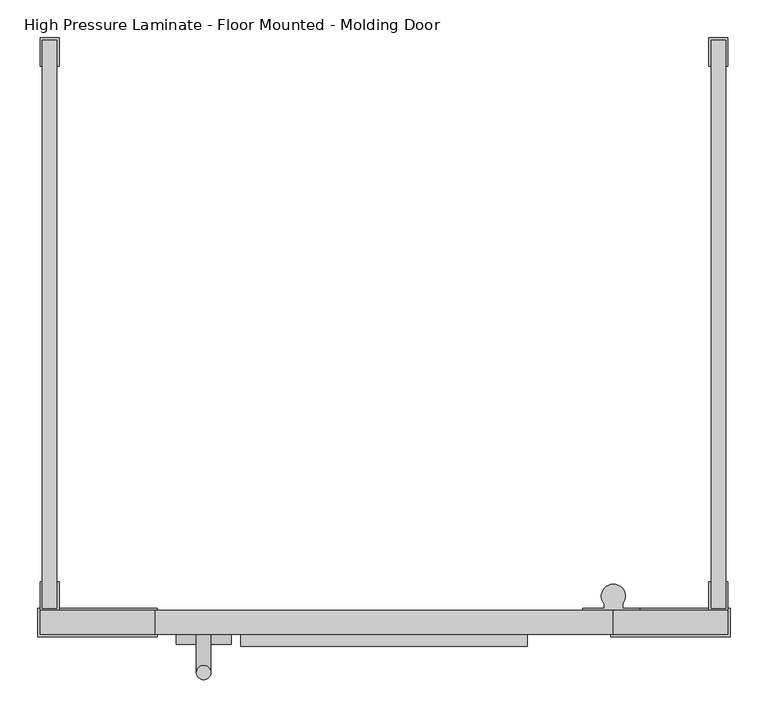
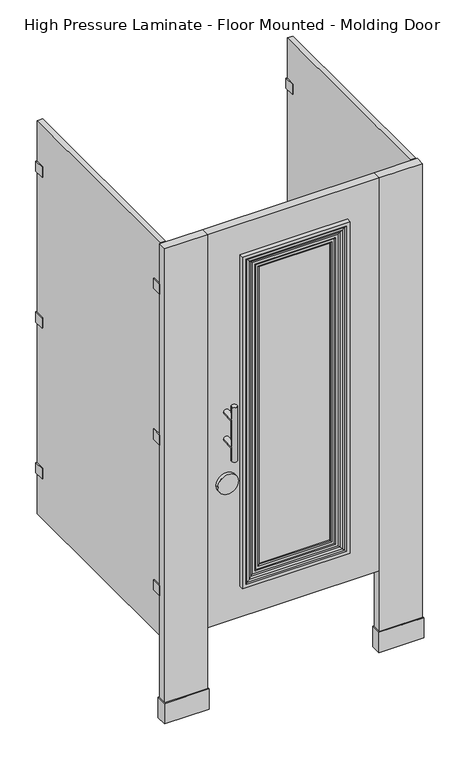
"""IFC4 building model written with IfcOpenShell, lengths in millimetres: proxy geometry, Toilet-Partition_Ironwood-Mfg_High-Pressure-Laminate : High Pressure Laminate - Floor Mounted - Molding Door."""

from ifc_helpers import new_model, si_unit, point, frame, frame_2d, origin, origin_with_axes, place, context, project, spatial, polyline, circle_curve, ellipse_curve, trimmed, segment, composite_curve, outline, extrude, source, transform, mapped, element, save
from ifc_brep_helpers import plane_surface, cylinder_surface, revolved_surface, advanced_brep


def high_pressure_laminate_floor_mounted_molding_door_ac0f712a(model_context):
    return source(origin(), model_context, "Body", "SolidModel", [
        extrude(outline(polyline([(701.675, -758.825), (701.675, -796.925), (542.925, -796.925), (542.925, -758.825), (701.675, -758.825)])), origin_with_axes(), (0.0, 0.0, 1.0), 76.2),
        extrude(outline(polyline([(698.5, -762.0), (698.5, -793.75), (546.1, -793.75), (546.1, -762.0), (698.5, -762.0)])), origin_with_axes(), (0.0, 0.0, 1.0), 1778.0),
        extrude(outline(polyline([(-219.075, -758.825), (-60.325, -758.825), (-60.325, -796.925), (-219.075, -796.925), (-219.075, -758.825)])), origin_with_axes(), (0.0, 0.0, 1.0), 76.2),
        extrude(outline(polyline([(-215.9, -762.0), (-63.5, -762.0), (-63.5, -793.75), (-215.9, -793.75), (-215.9, -762.0)])), origin_with_axes(), (0.0, 0.0, 1.0), 1778.0),
        extrude(outline(polyline([(546.1, -793.75), (-63.5, -793.75), (-63.5, -762.0), (546.1, -762.0), (546.1, -793.75)])), frame((0.0, 0.0, 304.8), z_axis=(0.0, 0.0, 1.0), x_axis=(1.0, 0.0, 0.0)), (0.0, 0.0, 1.0), 1473.2),
        extrude(outline(composite_curve([segment(trimmed(circle_curve(frame_2d((827.0875, 1.5875)), 36.5125), [point((827.0875, -34.925))], [point((827.0875, 38.1))], False, "CARTESIAN"), True, "CONTINUOUS"), segment(trimmed(circle_curve(frame_2d((827.0875, 1.5875)), 36.5125), [point((827.0875, 38.1))], [point((827.0875, -34.925))], False, "CARTESIAN"), True, "CONTINUOUS")], self_intersect=False)), frame((0.0, -806.45, 0.0), z_axis=(0.0, 1.0, 0.0), x_axis=(0.0, 0.0, 1.0)), (0.0, 0.0, 1.0), 12.7),
        advanced_brep(
        [(-7.9375, -793.75, 1092.2), (11.1125, -793.75, 1092.2), (-7.9375, -793.75, 990.6), (11.1125, -793.75, 990.6), (11.1125, -844.55, 1092.2), (-7.9375, -844.55, 1092.2), (11.1125, -844.55, 990.6), (-7.9375, -844.55, 990.6), (-7.9375, -844.55, 1143.0), (11.1125, -844.55, 1143.0), (-7.9375, -844.55, 939.8), (11.1125, -844.55, 939.8)],
        [
            (0, 1, circle_curve(frame((1.5875, -793.75, 1092.2), z_axis=(0.0, 1.0, 0.0), x_axis=(1.0, 0.0, 0.0)), 9.525)),
            (1, 0, circle_curve(frame((1.5875, -793.75, 1092.2), z_axis=(0.0, 1.0, 0.0), x_axis=(1.0, 0.0, 0.0)), 9.525)),
            (2, 3, circle_curve(frame((1.5875, -793.75, 990.6), z_axis=(0.0, 1.0, 0.0), x_axis=(1.0, 0.0, 0.0)), 9.525)),
            (3, 2, circle_curve(frame((1.5875, -793.75, 990.6), z_axis=(0.0, 1.0, 0.0), x_axis=(1.0, 0.0, 0.0)), 9.525)),
            (1, 4),
            (4, 5, ellipse_curve(frame((1.5875, -844.55, 1092.2), z_axis=(0.0, 0.7071067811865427, 0.7071067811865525), x_axis=(0.0, -0.7071067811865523, 0.7071067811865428)), 13.4703842, 9.525)),
            (5, 0),
            (5, 4, ellipse_curve(frame((1.5875, -844.55, 1092.2), z_axis=(0.0, 0.7071067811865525, -0.7071067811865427), x_axis=(0.0, -0.7071067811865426, -0.7071067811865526)), 13.4703842, 9.525)),
            (3, 6),
            (6, 7, ellipse_curve(frame((1.5875, -844.55, 990.6), z_axis=(0.0, 0.7071067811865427, 0.7071067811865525), x_axis=(0.0, -0.7071067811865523, 0.7071067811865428)), 13.4703842, 9.525)),
            (7, 2),
            (7, 6, ellipse_curve(frame((1.5875, -844.55, 990.6), z_axis=(0.0, 0.7071067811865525, -0.7071067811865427), x_axis=(0.0, -0.7071067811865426, -0.7071067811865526)), 13.4703842, 9.525)),
            (8, 9, circle_curve(frame((1.5875, -844.55, 1143.0), z_axis=(0.0, 0.0, 1.0), x_axis=(1.0, 0.0, 0.0)), 9.525)),
            (9, 8, circle_curve(frame((1.5875, -844.55, 1143.0), z_axis=(0.0, 0.0, 1.0), x_axis=(1.0, 0.0, 0.0)), 9.525)),
            (10, 11, circle_curve(frame((1.5875, -844.55, 939.8), z_axis=(0.0, 0.0, -1.0), x_axis=(1.0, 0.0, 0.0)), 9.525)),
            (11, 10, circle_curve(frame((1.5875, -844.55, 939.8), z_axis=(0.0, 0.0, -1.0), x_axis=(1.0, 0.0, 0.0)), 9.525)),
            (8, 5),
            (5, 7),
            (7, 10),
            (11, 6),
            (6, 4),
            (4, 9),
        ],
        [
            plane_surface(frame((11.1125, -793.75, 1092.2), z_axis=(0.0, 1.0, 0.0), x_axis=(0.0, 0.0, -1.0))),
            cylinder_surface(frame((1.5875, -793.75, 1092.2), z_axis=(0.0, -1.0, 0.0), x_axis=(1.0, 0.0, 0.0)), 9.525),
            cylinder_surface(frame((1.5875, -793.75, 990.6), z_axis=(0.0, -1.0, 0.0), x_axis=(1.0, 0.0, 0.0)), 9.525),
            plane_surface(frame((11.1125, -844.55, 1143.0), z_axis=(0.0, 0.0, 1.0), x_axis=(0.0, 1.0, 0.0))),
            plane_surface(frame((11.1125, -844.55, 939.8), z_axis=(0.0, 0.0, -1.0), x_axis=(0.0, -1.0, 0.0))),
            cylinder_surface(frame((1.5875, -844.55, 939.8), z_axis=(0.0, 0.0, 1.0), x_axis=(1.0, 0.0, 0.0)), 9.525),
        ],
        [
            (0, [[1, 2]]),
            (0, [[3, 4]]),
            (1, [[-2, 5, 6, 7]]),
            (1, [[-1, -7, 8, -5]]),
            (2, [[-4, 9, 10, 11]]),
            (2, [[-3, -11, 12, -9]]),
            (3, [[13, 14]]),
            (4, [[15, 16]]),
            (5, [[-13, 17, 18, 19, -16, 20, 21, 22]]),
            (5, [[-14, -22, -8, -17]]),
            (5, [[-15, -19, -10, -20]]),
            (5, [[-18, -6, -21, -12]]),
        ],
    ),
        advanced_brep(
        [(414.5195881, -795.0073117, 1646.4195881), (415.7768998, -793.75, 1647.6768998), (415.7768998, -793.75, 435.1231002), (414.5195881, -795.0073117, 436.3804119), (382.8493103, -793.6667663, 1614.7493103), (384.1898558, -795.0073117, 1616.0898558), (384.1898558, -795.0073117, 466.7101442), (382.8493103, -793.6667663, 468.0506897), (368.3, -798.7403203, 1600.2), (368.3, -793.6667663, 1600.2), (368.3, -793.6667663, 482.6), (368.3, -798.7403203, 482.6), (371.8761431, -802.1839988, 1603.7761431), (371.8761431, -802.1839988, 479.0238569), (383.7857899, -803.6776278, 1615.6857899), (381.5195942, -802.1839988, 1613.4195942), (381.5195942, -802.1839988, 469.3804058), (383.7857899, -803.6776278, 467.1142101), (399.1420677, -804.5443603, 1631.0420677), (393.8806616, -803.6776278, 1625.7806616), (393.8806616, -803.6776278, 457.0193384), (399.1420677, -804.5443603, 451.7579323), (406.241729, -807.1284257, 1638.141729), (406.241729, -807.1284257, 444.658271), (415.3065117, -806.819399, 1647.2065117), (415.3065117, -806.819399, 435.5934883), (419.1, -809.625, 1651.0), (419.1, -809.625, 431.8), (431.8, -793.75, 1663.7), (431.8, -809.625, 1663.7), (431.8, -809.625, 419.1), (431.8, -793.75, 419.1), (66.8231002, -793.75, 435.1231002), (68.0804119, -795.0073117, 436.3804119), (98.4101442, -795.0073117, 466.7101442), (99.7506897, -793.6667663, 468.0506897), (114.3, -793.6667663, 482.6), (114.3, -798.7403203, 482.6), (110.7238569, -802.1839988, 479.0238569), (101.0804058, -802.1839988, 469.3804058), (98.8142101, -803.6776278, 467.1142101), (88.7193384, -803.6776278, 457.0193384), (83.4579323, -804.5443603, 451.7579323), (76.358271, -807.1284257, 444.658271), (67.2934883, -806.819399, 435.5934883), (63.5, -809.625, 431.8), (50.8, -809.625, 419.1), (50.8, -793.75, 419.1), (66.8231002, -793.75, 1647.6768998), (68.0804119, -795.0073117, 1646.4195881), (98.4101442, -795.0073117, 1616.0898558), (99.7506897, -793.6667663, 1614.7493103), (114.3, -793.6667663, 1600.2), (114.3, -798.7403203, 1600.2), (110.7238569, -802.1839988, 1603.7761431), (101.0804058, -802.1839988, 1613.4195942), (98.8142101, -803.6776278, 1615.6857899), (88.7193384, -803.6776278, 1625.7806616), (83.4579323, -804.5443603, 1631.0420677), (76.358271, -807.1284257, 1638.141729), (67.2934883, -806.819399, 1647.2065117), (63.5, -809.625, 1651.0), (50.8, -809.625, 1663.7), (50.8, -793.75, 1663.7)],
        [
            (0, 1),
            (1, 2),
            (2, 3),
            (3, 0),
            (4, 5),
            (5, 6),
            (6, 7),
            (7, 4),
            (8, 9),
            (9, 10),
            (10, 11),
            (11, 8),
            (12, 8, ellipse_curve(frame((371.8761431, -798.6053079, 1603.7761431), z_axis=(0.7071067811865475, 0.0, -0.7071067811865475), x_axis=(0.7071067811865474, 0.0, 0.7071067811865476)), 5.0610331, 3.5786908)),
            (11, 13, ellipse_curve(frame((371.8761431, -798.6053079, 479.0238569), z_axis=(0.7071067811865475, 0.0, 0.7071067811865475), x_axis=(-0.7071067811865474, 0.0, 0.7071067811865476)), 5.0610331, 3.5786908)),
            (13, 12),
            (14, 15, ellipse_curve(frame((383.7857899, -801.2116303, 1615.6857899), z_axis=(0.7071067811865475, 0.0, -0.7071067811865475), x_axis=(0.7071067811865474, 0.0, 0.7071067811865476)), 3.487447, 2.4659974)),
            (15, 16),
            (16, 17, ellipse_curve(frame((383.7857899, -801.2116303, 467.1142101), z_axis=(0.7071067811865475, 0.0, 0.7071067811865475), x_axis=(-0.7071067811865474, 0.0, 0.7071067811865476)), 3.487447, 2.4659974)),
            (17, 14),
            (18, 19, ellipse_curve(frame((394.2058089, -818.1066197, 1626.1058089), z_axis=(-0.7071067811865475, 0.0, 0.7071067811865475), x_axis=(-0.7071067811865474, 0.0, -0.7071067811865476)), 20.4108564, 14.432655)),
            (19, 20),
            (20, 21, ellipse_curve(frame((394.2058089, -818.1066197, 456.6941911), z_axis=(-0.7071067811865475, 0.0, -0.7071067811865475), x_axis=(0.7071067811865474, 0.0, -0.7071067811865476)), 20.4108564, 14.432655)),
            (21, 18),
            (22, 18),
            (21, 23),
            (23, 22),
            (24, 22, ellipse_curve(frame((410.3907719, -795.729024, 1642.2907719), z_axis=(0.7071067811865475, 0.0, -0.7071067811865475), x_axis=(0.7071067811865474, 0.0, 0.7071067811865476)), 17.1558104, 12.1309899)),
            (23, 25, ellipse_curve(frame((410.3907719, -795.729024, 440.5092281), z_axis=(0.7071067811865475, 0.0, 0.7071067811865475), x_axis=(-0.7071067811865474, 0.0, 0.7071067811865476)), 17.1558104, 12.1309899)),
            (25, 24),
            (26, 24, ellipse_curve(frame((419.1, -805.657588, 1651.0), z_axis=(0.7071067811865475, 0.0, -0.7071067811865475), x_axis=(0.7071067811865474, 0.0, 0.7071067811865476)), 5.6107679, 3.967412)),
            (25, 27, ellipse_curve(frame((419.1, -805.657588, 431.8), z_axis=(0.7071067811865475, 0.0, 0.7071067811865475), x_axis=(-0.7071067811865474, 0.0, 0.7071067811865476)), 5.6107679, 3.967412)),
            (27, 26),
            (28, 29),
            (29, 30),
            (30, 31),
            (31, 28),
            (2, 32),
            (32, 33),
            (33, 3),
            (6, 34),
            (34, 35),
            (35, 7),
            (10, 36),
            (36, 37),
            (37, 11),
            (37, 38, ellipse_curve(frame((110.7238569, -798.6053079, 479.0238569), z_axis=(0.7071067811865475, 0.0, -0.7071067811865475), x_axis=(0.7071067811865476, 0.0, 0.7071067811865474)), 5.0610331, 3.5786908)),
            (38, 13),
            (16, 39),
            (39, 40, ellipse_curve(frame((98.8142101, -801.2116303, 467.1142101), z_axis=(0.7071067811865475, 0.0, -0.7071067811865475), x_axis=(0.7071067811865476, 0.0, 0.7071067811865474)), 3.487447, 2.4659974)),
            (40, 17),
            (20, 41),
            (41, 42, ellipse_curve(frame((88.3941911, -818.1066197, 456.6941911), z_axis=(-0.7071067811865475, 0.0, 0.7071067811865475), x_axis=(-0.7071067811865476, 0.0, -0.7071067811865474)), 20.4108564, 14.432655)),
            (42, 21),
            (42, 43),
            (43, 23),
            (43, 44, ellipse_curve(frame((72.2092281, -795.729024, 440.5092281), z_axis=(0.7071067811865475, 0.0, -0.7071067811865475), x_axis=(0.7071067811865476, 0.0, 0.7071067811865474)), 17.1558104, 12.1309899)),
            (44, 25),
            (44, 45, ellipse_curve(frame((63.5, -805.657588, 431.8), z_axis=(0.7071067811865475, 0.0, -0.7071067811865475), x_axis=(0.7071067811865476, 0.0, 0.7071067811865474)), 5.6107679, 3.967412)),
            (45, 27),
            (30, 46),
            (46, 47),
            (47, 31),
            (32, 48),
            (48, 49),
            (49, 33),
            (34, 50),
            (50, 51),
            (51, 35),
            (36, 52),
            (52, 53),
            (53, 37),
            (53, 54, ellipse_curve(frame((110.7238569, -798.6053079, 1603.7761431), z_axis=(-0.7071067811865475, 0.0, -0.7071067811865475), x_axis=(0.7071067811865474, 0.0, -0.7071067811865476)), 5.0610331, 3.5786908)),
            (54, 38),
            (39, 55),
            (55, 56, ellipse_curve(frame((98.8142101, -801.2116303, 1615.6857899), z_axis=(-0.7071067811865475, 0.0, -0.7071067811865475), x_axis=(0.7071067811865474, 0.0, -0.7071067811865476)), 3.487447, 2.4659974)),
            (56, 40),
            (41, 57),
            (57, 58, ellipse_curve(frame((88.3941911, -818.1066197, 1626.1058089), z_axis=(0.7071067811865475, 0.0, 0.7071067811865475), x_axis=(-0.7071067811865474, 0.0, 0.7071067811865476)), 20.4108564, 14.432655)),
            (58, 42),
            (58, 59),
            (59, 43),
            (59, 60, ellipse_curve(frame((72.2092281, -795.729024, 1642.2907719), z_axis=(-0.7071067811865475, 0.0, -0.7071067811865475), x_axis=(0.7071067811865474, 0.0, -0.7071067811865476)), 17.1558104, 12.1309899)),
            (60, 44),
            (60, 61, ellipse_curve(frame((63.5, -805.657588, 1651.0), z_axis=(-0.7071067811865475, 0.0, -0.7071067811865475), x_axis=(0.7071067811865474, 0.0, -0.7071067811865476)), 5.6107679, 3.967412)),
            (61, 45),
            (46, 62),
            (62, 63),
            (63, 47),
            (63, 28),
            (1, 48),
            (0, 49),
            (5, 50),
            (4, 51),
            (9, 52),
            (8, 53),
            (12, 54),
            (15, 55),
            (14, 56),
            (19, 57),
            (18, 58),
            (22, 59),
            (24, 60),
            (26, 61),
            (29, 62),
        ],
        [
            plane_surface(frame((415.7768998, -793.75, 1647.6768998), z_axis=(-0.7071067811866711, 0.7071067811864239, 0.0), x_axis=(0.0, 0.0, -1.0))),
            plane_surface(frame((384.1898558, -795.0073117, 1616.0898558), z_axis=(0.7071067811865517, 0.7071067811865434, 0.0), x_axis=(0.0, 0.0, -1.0))),
            plane_surface(frame((368.3, -793.6667663, 1600.2), z_axis=(-1.0, 0.0, 0.0), x_axis=(0.0, 0.0, -1.0))),
            cylinder_surface(frame((371.8761431, -798.6053079, 1663.7), z_axis=(0.0, 0.0, 1.0), x_axis=(1.0, 0.0, 0.0)), 3.5786908),
            cylinder_surface(frame((383.7857899, -801.2116303, 1663.7), z_axis=(0.0, 0.0, 1.0), x_axis=(1.0, 0.0, 0.0)), 2.4659974),
            revolved_surface(polyline([(408.63846390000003, -818.1066197, 442.2615361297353), (408.63846390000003, -818.1066197, 1640.5384638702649)]), (394.2058089, -818.1066197, 1663.7), (0.0, 0.0, -1.0)),
            plane_surface(frame((399.1420677, -804.5443603, 1631.0420677), z_axis=(-0.34202014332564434, -0.9396926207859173, 0.0), x_axis=(0.0, 0.0, -1.0))),
            cylinder_surface(frame((410.3907719, -795.729024, 1663.7), z_axis=(0.0, 0.0, 1.0), x_axis=(1.0, 0.0, 0.0)), 12.1309899),
            cylinder_surface(frame((419.1, -805.657588, 1663.7), z_axis=(0.0, 0.0, 1.0), x_axis=(1.0, 0.0, 0.0)), 3.967412),
            plane_surface(frame((431.8, -809.625, 1663.7), z_axis=(1.0, 0.0, 0.0), x_axis=(0.0, 0.0, -1.0))),
            plane_surface(frame((415.7768998, -793.75, 435.1231002), z_axis=(0.0, 0.7071067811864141, 0.7071067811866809), x_axis=(-1.0, 0.0, 0.0))),
            plane_surface(frame((384.1898558, -795.0073117, 466.7101442), z_axis=(0.0, 0.7071067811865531, -0.7071067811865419), x_axis=(-1.0, 0.0, 0.0))),
            plane_surface(frame((368.3, -793.6667663, 482.6), z_axis=(0.0, 0.0, 1.0), x_axis=(-1.0, 0.0, 0.0))),
            cylinder_surface(frame((431.8, -798.6053079, 479.0238569), z_axis=(1.0, 0.0, 0.0), x_axis=(0.0, 0.0, -1.0)), 3.5786908),
            cylinder_surface(frame((431.8, -801.2116303, 467.1142101), z_axis=(1.0, 0.0, 0.0), x_axis=(0.0, 0.0, -1.0)), 2.4659974),
            revolved_surface(polyline([(73.96153612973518, -818.1066197, 442.2615361), (408.63846387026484, -818.1066197, 442.2615361)]), (431.8, -818.1066197, 456.6941911), (-1.0, 0.0, 0.0)),
            plane_surface(frame((399.1420677, -804.5443603, 451.7579323), z_axis=(0.0, -0.9396926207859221, 0.34202014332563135), x_axis=(-1.0, 0.0, 0.0))),
            cylinder_surface(frame((431.8, -795.729024, 440.5092281), z_axis=(1.0, 0.0, 0.0), x_axis=(0.0, 0.0, -1.0)), 12.1309899),
            cylinder_surface(frame((431.8, -805.657588, 431.8), z_axis=(1.0, 0.0, 0.0), x_axis=(0.0, 0.0, -1.0)), 3.967412),
            plane_surface(frame((431.8, -809.625, 419.1), z_axis=(0.0, 0.0, -1.0), x_axis=(-1.0, 0.0, 0.0))),
            plane_surface(frame((66.8231002, -793.75, 435.1231002), z_axis=(0.7071067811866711, 0.7071067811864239, 0.0), x_axis=(0.0, 0.0, 1.0))),
            plane_surface(frame((98.4101442, -795.0073117, 466.7101442), z_axis=(-0.7071067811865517, 0.7071067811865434, 0.0), x_axis=(0.0, 0.0, 1.0))),
            plane_surface(frame((114.3, -793.6667663, 482.6), z_axis=(1.0, 0.0, 0.0), x_axis=(0.0, 0.0, 1.0))),
            cylinder_surface(frame((110.7238569, -798.6053079, 419.1), z_axis=(0.0, 0.0, -1.0), x_axis=(-1.0, 0.0, 0.0)), 3.5786908),
            cylinder_surface(frame((98.8142101, -801.2116303, 419.1), z_axis=(0.0, 0.0, -1.0), x_axis=(-1.0, 0.0, 0.0)), 2.4659974),
            revolved_surface(polyline([(73.9615361, -818.1066197, 1640.5384638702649), (73.9615361, -818.1066197, 442.2615361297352)]), (88.3941911, -818.1066197, 419.1), (0.0, 0.0, 1.0)),
            plane_surface(frame((83.4579323, -804.5443603, 451.7579323), z_axis=(0.34202014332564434, -0.9396926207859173, 0.0), x_axis=(0.0, 0.0, 1.0))),
            cylinder_surface(frame((72.2092281, -795.729024, 419.1), z_axis=(0.0, 0.0, -1.0), x_axis=(-1.0, 0.0, 0.0)), 12.1309899),
            cylinder_surface(frame((63.5, -805.657588, 419.1), z_axis=(0.0, 0.0, -1.0), x_axis=(-1.0, 0.0, 0.0)), 3.967412),
            plane_surface(frame((50.8, -809.625, 419.1), z_axis=(-1.0, 0.0, 0.0), x_axis=(0.0, 0.0, 1.0))),
            plane_surface(frame((50.8, -793.75, 1663.7), z_axis=(0.0, 1.0, 0.0), x_axis=(1.0, 0.0, 0.0))),
            plane_surface(frame((66.8231002, -793.75, 1647.6768998), z_axis=(0.0, 0.7071067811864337, -0.7071067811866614), x_axis=(1.0, 0.0, 0.0))),
            plane_surface(frame((68.0804119, -795.0073117, 1646.4195881), z_axis=(0.0, 1.0, 0.0), x_axis=(1.0, 0.0, 0.0))),
            plane_surface(frame((98.4101442, -795.0073117, 1616.0898558), z_axis=(0.0, 0.7071067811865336, 0.7071067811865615), x_axis=(1.0, 0.0, 0.0))),
            plane_surface(frame((99.7506897, -793.6667663, 1614.7493103), z_axis=(0.0, 1.0, 0.0), x_axis=(1.0, 0.0, 0.0))),
            plane_surface(frame((114.3, -793.6667663, 1600.2), z_axis=(0.0, 0.0, -1.0), x_axis=(1.0, 0.0, 0.0))),
            cylinder_surface(frame((50.8, -798.6053079, 1603.7761431), z_axis=(-1.0, 0.0, 0.0), x_axis=(0.0, 0.0, 1.0)), 3.5786908),
            plane_surface(frame((110.7238569, -802.1839988, 1603.7761431), z_axis=(0.0, -1.0, 0.0), x_axis=(1.0, 0.0, 0.0))),
            cylinder_surface(frame((50.8, -801.2116303, 1615.6857899), z_axis=(-1.0, 0.0, 0.0), x_axis=(0.0, 0.0, 1.0)), 2.4659974),
            plane_surface(frame((98.8142101, -803.6776278, 1615.6857899), z_axis=(0.0, -1.0, 0.0), x_axis=(1.0, 0.0, 0.0))),
            revolved_surface(polyline([(408.63846387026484, -818.1066197, 1640.5384639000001), (73.96153612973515, -818.1066197, 1640.5384639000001)]), (50.8, -818.1066197, 1626.1058089), (1.0, 0.0, 0.0)),
            plane_surface(frame((83.4579323, -804.5443603, 1631.0420677), z_axis=(0.0, -0.9396926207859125, -0.34202014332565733), x_axis=(1.0, 0.0, 0.0))),
            cylinder_surface(frame((50.8, -795.729024, 1642.2907719), z_axis=(-1.0, 0.0, 0.0), x_axis=(0.0, 0.0, 1.0)), 12.1309899),
            cylinder_surface(frame((50.8, -805.657588, 1651.0), z_axis=(-1.0, 0.0, 0.0), x_axis=(0.0, 0.0, 1.0)), 3.967412),
            plane_surface(frame((63.5, -809.625, 1651.0), z_axis=(0.0, -1.0, 0.0), x_axis=(1.0, 0.0, 0.0))),
            plane_surface(frame((50.8, -809.625, 1663.7), z_axis=(0.0, 0.0, 1.0), x_axis=(1.0, 0.0, 0.0))),
        ],
        [
            (0, [[1, 2, 3, 4]]),
            (1, [[5, 6, 7, 8]]),
            (2, [[9, 10, 11, 12]]),
            (3, [[13, -12, 14, 15]]),
            (4, [[16, 17, 18, 19]]),
            (5, [[20, 21, 22, 23]]),
            (6, [[24, -23, 25, 26]]),
            (7, [[27, -26, 28, 29]]),
            (8, [[30, -29, 31, 32]]),
            (9, [[33, 34, 35, 36]]),
            (10, [[-3, 37, 38, 39]]),
            (11, [[-7, 40, 41, 42]]),
            (12, [[-11, 43, 44, 45]]),
            (13, [[-14, -45, 46, 47]]),
            (14, [[-18, 48, 49, 50]]),
            (15, [[-22, 51, 52, 53]]),
            (16, [[-25, -53, 54, 55]]),
            (17, [[-28, -55, 56, 57]]),
            (18, [[-31, -57, 58, 59]]),
            (19, [[-35, 60, 61, 62]]),
            (20, [[-38, 63, 64, 65]]),
            (21, [[-41, 66, 67, 68]]),
            (22, [[-44, 69, 70, 71]]),
            (23, [[-46, -71, 72, 73]]),
            (24, [[-49, 74, 75, 76]]),
            (25, [[-52, 77, 78, 79]]),
            (26, [[-54, -79, 80, 81]]),
            (27, [[-56, -81, 82, 83]]),
            (28, [[-58, -83, 84, 85]]),
            (29, [[-61, 86, 87, 88]]),
            (30, [[-62, -88, 89, -36], [90, -63, -37, -2]]),
            (31, [[-64, -90, -1, 91]]),
            (32, [[-39, -65, -91, -4], [92, -66, -40, -6]]),
            (33, [[-67, -92, -5, 93]]),
            (34, [[-42, -68, -93, -8], [94, -69, -43, -10]]),
            (35, [[-70, -94, -9, 95]]),
            (36, [[-72, -95, -13, 96]]),
            (37, [[97, -74, -48, -17], [-47, -73, -96, -15]]),
            (38, [[-75, -97, -16, 98]]),
            (39, [[99, -77, -51, -21], [-50, -76, -98, -19]]),
            (40, [[-78, -99, -20, 100]]),
            (41, [[-80, -100, -24, 101]]),
            (42, [[-82, -101, -27, 102]]),
            (43, [[-84, -102, -30, 103]]),
            (44, [[104, -86, -60, -34], [-59, -85, -103, -32]]),
            (45, [[-87, -104, -33, -89]]),
        ],
    ),
        extrude(outline(composite_curve([segment(polyline([(581.3737081, -762.0), (505.1737081, -762.0), (505.1737081, -758.825), (533.7487081, -758.825), (533.7487081, -752.9581331)]), True, "CONTINUOUS"), segment(trimmed(circle_curve(frame_2d((546.1, -742.8902139)), 15.9347861), [point((533.7487081, -752.9581331))], [point((558.4512919, -752.9581331))], False, "CARTESIAN"), True, "CONTINUOUS"), segment(polyline([(558.4512919, -752.9581331), (558.4512919, -758.825), (581.3737081, -758.825), (581.3737081, -762.0)]), True, "CONTINUOUS")], self_intersect=False)), frame((0.0, 0.0, 1574.8), z_axis=(0.0, 0.0, 1.0), x_axis=(1.0, 0.0, 0.0)), (0.0, 0.0, 1.0), 63.5),
        extrude(outline(composite_curve([segment(polyline([(581.3737081, -762.0), (505.1737081, -762.0), (505.1737081, -758.825), (533.7487081, -758.825), (533.7487081, -752.9581331)]), True, "CONTINUOUS"), segment(trimmed(circle_curve(frame_2d((546.1, -742.8902139)), 15.9347861), [point((533.7487081, -752.9581331))], [point((558.4512919, -752.9581331))], False, "CARTESIAN"), True, "CONTINUOUS"), segment(polyline([(558.4512919, -752.9581331), (558.4512919, -758.825), (581.3737081, -758.825), (581.3737081, -762.0)]), True, "CONTINUOUS")], self_intersect=False)), frame((0.0, 0.0, 1009.6500001), z_axis=(0.0, 0.0, 1.0), x_axis=(1.0, 0.0, 0.0)), (0.0, 0.0, 1.0), 63.5),
        extrude(outline(composite_curve([segment(polyline([(581.3737081, -762.0), (505.1737081, -762.0), (505.1737081, -758.825), (533.7487081, -758.825), (533.7487081, -752.9581331)]), True, "CONTINUOUS"), segment(trimmed(circle_curve(frame_2d((546.1, -742.8902139)), 15.9347861), [point((533.7487081, -752.9581331))], [point((558.4512919, -752.9581331))], False, "CARTESIAN"), True, "CONTINUOUS"), segment(polyline([(558.4512919, -752.9581331), (558.4512919, -758.825), (581.3737081, -758.825), (581.3737081, -762.0)]), True, "CONTINUOUS")], self_intersect=False)), frame((0.0, 0.0, 444.5), z_axis=(0.0, 0.0, 1.0), x_axis=(1.0, 0.0, 0.0)), (0.0, 0.0, 1.0), 63.5),
        extrude(outline(polyline([(676.148, -723.9), (676.148, -758.825), (695.198, -758.825), (695.198, -723.9), (698.373, -723.9), (698.373, -762.0), (672.973, -762.0), (672.973, -723.9), (676.148, -723.9)])), frame((0.0, 0.0, 1587.8188137), z_axis=(0.0, 0.0, 1.0), x_axis=(1.0, 0.0, 0.0)), (0.0, 0.0, 1.0), 38.1),
        extrude(outline(polyline([(676.148, -38.1), (672.973, -38.1), (672.973, 0.0), (698.373, 0.0), (698.373, -38.1), (695.198, -38.1), (695.198, -3.175), (676.148, -3.175), (676.148, -38.1)])), frame((0.0, 0.0, 1587.8188137), z_axis=(0.0, 0.0, 1.0), x_axis=(1.0, 0.0, 0.0)), (0.0, 0.0, 1.0), 38.1),
        extrude(outline(polyline([(676.148, -723.9), (676.148, -758.825), (695.198, -758.825), (695.198, -723.9), (698.373, -723.9), (698.373, -762.0), (672.973, -762.0), (672.973, -723.9), (676.148, -723.9)])), frame((0.0, 0.0, 1022.35), z_axis=(0.0, 0.0, 1.0), x_axis=(1.0, 0.0, 0.0)), (0.0, 0.0, 1.0), 38.1),
        extrude(outline(polyline([(676.148, -38.1), (672.973, -38.1), (672.973, 0.0), (698.373, 0.0), (698.373, -38.1), (695.198, -38.1), (695.198, -3.175), (676.148, -3.175), (676.148, -38.1)])), frame((0.0, 0.0, 1022.35), z_axis=(0.0, 0.0, 1.0), x_axis=(1.0, 0.0, 0.0)), (0.0, 0.0, 1.0), 38.1),
        extrude(outline(polyline([(676.148, -723.9), (676.148, -758.825), (695.198, -758.825), (695.198, -723.9), (698.373, -723.9), (698.373, -762.0), (672.973, -762.0), (672.973, -723.9), (676.148, -723.9)])), frame((0.0, 0.0, 457.2), z_axis=(0.0, 0.0, 1.0), x_axis=(1.0, 0.0, 0.0)), (0.0, 0.0, 1.0), 38.1),
        extrude(outline(polyline([(676.148, -38.1), (672.973, -38.1), (672.973, 0.0), (698.373, 0.0), (698.373, -38.1), (695.198, -38.1), (695.198, -3.175), (676.148, -3.175), (676.148, -38.1)])), frame((0.0, 0.0, 457.2), z_axis=(0.0, 0.0, 1.0), x_axis=(1.0, 0.0, 0.0)), (0.0, 0.0, 1.0), 38.1),
        extrude(outline(polyline([(-212.598, -723.9), (-212.598, -758.825), (-193.548, -758.825), (-193.548, -723.9), (-190.373, -723.9), (-190.373, -762.0), (-215.773, -762.0), (-215.773, -723.9), (-212.598, -723.9)])), frame((0.0, 0.0, 1587.8188137), z_axis=(0.0, 0.0, 1.0), x_axis=(1.0, 0.0, 0.0)), (0.0, 0.0, 1.0), 38.1),
        extrude(outline(polyline([(-212.598, -38.1), (-215.773, -38.1), (-215.773, 0.0), (-190.373, 0.0), (-190.373, -38.1), (-193.548, -38.1), (-193.548, -3.175), (-212.598, -3.175), (-212.598, -38.1)])), frame((0.0, 0.0, 1587.8188137), z_axis=(0.0, 0.0, 1.0), x_axis=(1.0, 0.0, 0.0)), (0.0, 0.0, 1.0), 38.1),
        extrude(outline(polyline([(-212.598, -723.9), (-212.598, -758.825), (-193.548, -758.825), (-193.548, -723.9), (-190.373, -723.9), (-190.373, -762.0), (-215.773, -762.0), (-215.773, -723.9), (-212.598, -723.9)])), frame((0.0, 0.0, 1022.35), z_axis=(0.0, 0.0, 1.0), x_axis=(1.0, 0.0, 0.0)), (0.0, 0.0, 1.0), 38.1),
        extrude(outline(polyline([(-212.598, -38.1), (-215.773, -38.1), (-215.773, 0.0), (-190.373, 0.0), (-190.373, -38.1), (-193.548, -38.1), (-193.548, -3.175), (-212.598, -3.175), (-212.598, -38.1)])), frame((0.0, 0.0, 1022.35), z_axis=(0.0, 0.0, 1.0), x_axis=(1.0, 0.0, 0.0)), (0.0, 0.0, 1.0), 38.1),
        extrude(outline(polyline([(-212.598, -723.9), (-212.598, -758.825), (-193.548, -758.825), (-193.548, -723.9), (-190.373, -723.9), (-190.373, -762.0), (-215.773, -762.0), (-215.773, -723.9), (-212.598, -723.9)])), frame((0.0, 0.0, 457.2), z_axis=(0.0, 0.0, 1.0), x_axis=(1.0, 0.0, 0.0)), (0.0, 0.0, 1.0), 38.1),
        extrude(outline(polyline([(-212.598, -38.1), (-215.773, -38.1), (-215.773, 0.0), (-190.373, 0.0), (-190.373, -38.1), (-193.548, -38.1), (-193.548, -3.175), (-212.598, -3.175), (-212.598, -38.1)])), frame((0.0, 0.0, 457.2), z_axis=(0.0, 0.0, 1.0), x_axis=(1.0, 0.0, 0.0)), (0.0, 0.0, 1.0), 38.1),
        extrude(outline(polyline([(-193.548, -3.175), (-193.548, -758.825), (-212.598, -758.825), (-212.598, -3.175), (-193.548, -3.175)])), frame((0.0, 0.0, 304.8), z_axis=(0.0, 0.0, 1.0), x_axis=(1.0, 0.0, 0.0)), (0.0, 0.0, 1.0), 1473.2),
        extrude(outline(polyline([(695.198, -3.175), (695.198, -758.825), (676.148, -758.825), (676.148, -3.175), (695.198, -3.175)])), frame((0.0, 0.0, 304.8), z_axis=(0.0, 0.0, 1.0), x_axis=(1.0, 0.0, 0.0)), (0.0, 0.0, 1.0), 1473.2),
    ])


if __name__ == "__main__":
    model = new_model("IFC4")
    model_context = context("Model", 3, world=origin())
    ifc_project = project(units=[si_unit("LENGTHUNIT", "METRE", prefix="MILLI")], contexts=[model_context])
    site = spatial("IfcSite", under=ifc_project)
    building = spatial("IfcBuilding", under=site)
    placement = place(None, origin())
    high_pressure_laminate_floor_mounted_molding_door_shape = high_pressure_laminate_floor_mounted_molding_door_ac0f712a(model_context)
    element("IfcBuildingElementProxy", 1, Name="Toilet-Partition_Ironwood-Mfg_High-Pressure-Laminate : High Pressure Laminate - Floor Mounted - Molding Door", ObjectType="Toilet-Partition_Ironwood-Mfg_High-Pressure-Laminate : High Pressure Laminate - Floor Mounted - Molding Door", at=placement, inside=building, context=model_context, shape_type="MappedRepresentation", body=[
        mapped(high_pressure_laminate_floor_mounted_molding_door_shape, transform((0.0, 0.0, 0.0), x_axis=(1.0, 0.0, 0.0), y_axis=(0.0, 1.0, 0.0), z_axis=(0.0, 0.0, 1.0))),
    ])
    save(model, "model.ifc")
